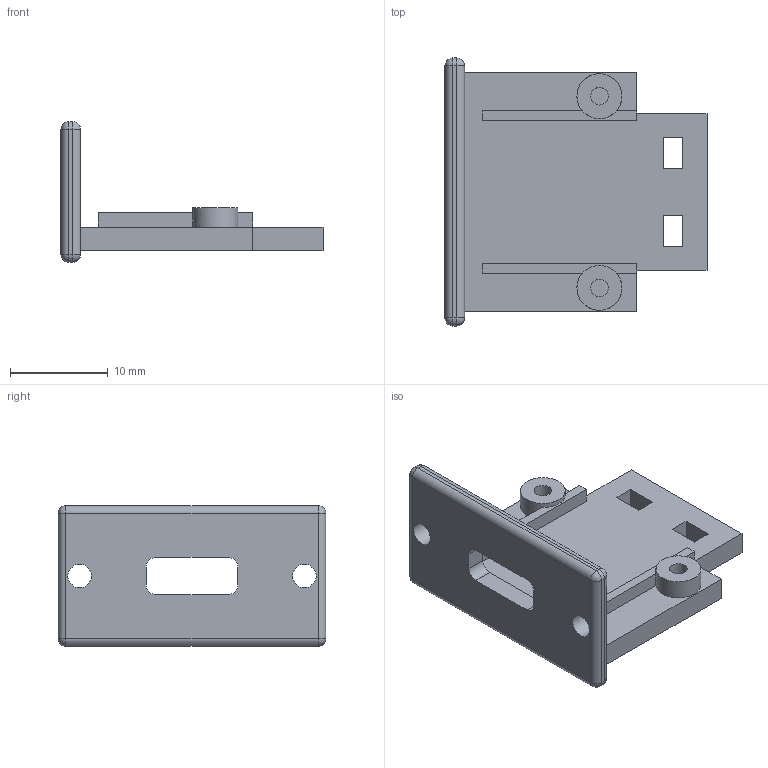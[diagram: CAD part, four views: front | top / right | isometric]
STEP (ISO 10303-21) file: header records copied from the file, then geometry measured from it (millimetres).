
FILE_DESCRIPTION(('Open CASCADE Model'),'2;1');
FILE_NAME('Open CASCADE Shape Model','2026-10-20T16:33:21',('Author'),( 'Open CASCADE'),'Open CASCADE STEP processor 7.8','Open CASCADE 7.8' ,'Unknown');
FILE_SCHEMA(('AUTOMOTIVE_DESIGN { 1 0 10303 214 1 1 1 1 }'));
Length unit declared in the file: millimetre
Products named in the file (1): Open CASCADE STEP translator 7.8 2
Bounding box: 26.8 x 27.4 x 14.4 mm (x, y, z)
Volume: 2041 mm3; surface area: 2303.6 mm2
Topology: 1 solids, 1 shells, 71 faces, 182 edges, 108 vertices
Faces by surface type: plane 41, cylinder 22, sphere 8
Full cylindrical faces by diameter (mm): 1.8 x2, 2.4 x2, 4.6 x2
Entity records: 4296 total; most frequent: CARTESIAN_POINT 834, DIRECTION 622, LINE 366, VECTOR 366, ORIENTED_EDGE 348, PCURVE 348, DEFINITIONAL_REPRESENTATION 348, EDGE_CURVE 174
